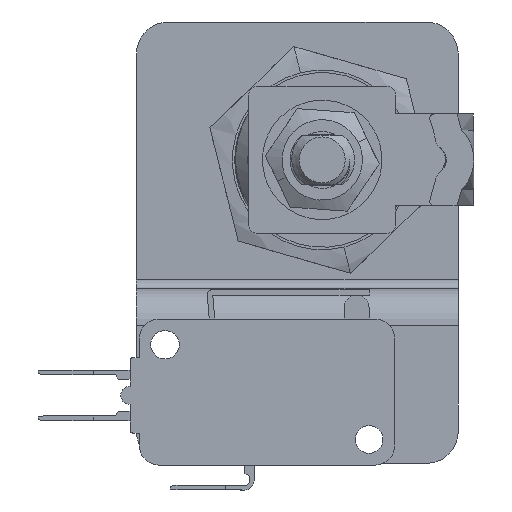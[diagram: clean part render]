
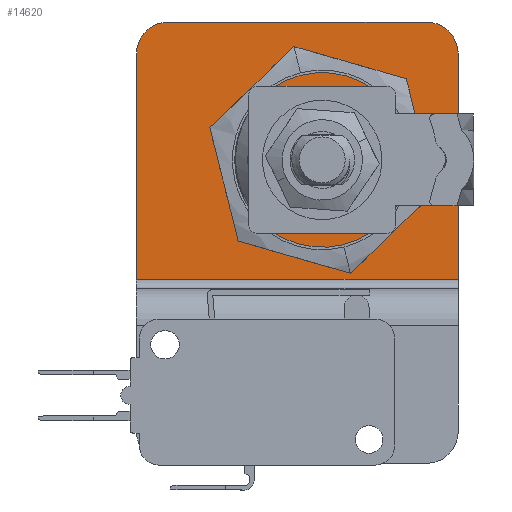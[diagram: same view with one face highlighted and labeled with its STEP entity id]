
A CAD part, front view. The second image highlights one B-rep face of the part: STEP entity #14620.
In plain terms, the highlighted planar face has unit normal (0, -1, 0) as drawn and (0, 1, 0) by its records, which use the part's own axes.
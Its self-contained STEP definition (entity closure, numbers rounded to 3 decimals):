
#10907 = AXIS2_PLACEMENT_3D ( 'NONE', #12233, #12234, #12235 ) ;
#10908 = AXIS2_PLACEMENT_3D ( 'NONE', #12242, #12243, #12244 ) ;
#10911 = AXIS2_PLACEMENT_3D ( 'NONE', #12262, #12263, #12264 ) ;
#10912 = AXIS2_PLACEMENT_3D ( 'NONE', #12269, #12270, #12271 ) ;
#11248 = CIRCLE ( 'NONE', #10907, 9.55 ) ;
#11251 = LINE ( 'NONE', #12236, #11254 ) ;
#11254 = VECTOR ( 'NONE', #12238, 1000. ) ;
#11255 = CIRCLE ( 'NONE', #10908, 9.55 ) ;
#11257 = LINE ( 'NONE', #12240, #11263 ) ;
#11258 = LINE ( 'NONE', #12245, #11261 ) ;
#11261 = VECTOR ( 'NONE', #12246, 1000. ) ;
#11263 = VECTOR ( 'NONE', #12247, 1000. ) ;
#11265 = LINE ( 'NONE', #12248, #11267 ) ;
#11267 = VECTOR ( 'NONE', #12249, 1000. ) ;
#11268 = CIRCLE ( 'NONE', #10911, 3.5 ) ;
#11271 = LINE ( 'NONE', #12265, #11274 ) ;
#11274 = VECTOR ( 'NONE', #12266, 1000. ) ;
#11275 = CIRCLE ( 'NONE', #10912, 3.5 ) ;
#11278 = LINE ( 'NONE', #12272, #11281 ) ;
#11281 = VECTOR ( 'NONE', #12273, 1000. ) ;
#12233 = CARTESIAN_POINT ( 'NONE',  ( 15., 3., 14.8 ) ) ;
#12234 = DIRECTION ( 'NONE',  ( 0., 1., 0. ) ) ;
#12235 = DIRECTION ( 'NONE',  ( 0., 0., -1. ) ) ;
#12236 = CARTESIAN_POINT ( 'NONE',  ( 7., 3., 35. ) ) ;
#12238 = DIRECTION ( 'NONE',  ( 0., 0., 1. ) ) ;
#12240 = CARTESIAN_POINT ( 'NONE',  ( 28., 3., 35. ) ) ;
#12242 = CARTESIAN_POINT ( 'NONE',  ( 15., 3., 14.8 ) ) ;
#12243 = DIRECTION ( 'NONE',  ( 0., 1., 0. ) ) ;
#12244 = DIRECTION ( 'NONE',  ( 0., 0., -1. ) ) ;
#12245 = CARTESIAN_POINT ( 'NONE',  ( 23., 3., 35. ) ) ;
#12246 = DIRECTION ( 'NONE',  ( 0., 0., -1. ) ) ;
#12247 = DIRECTION ( 'NONE',  ( 0., 0., 1. ) ) ;
#12248 = CARTESIAN_POINT ( 'NONE',  ( 32., 3., 35. ) ) ;
#12249 = DIRECTION ( 'NONE',  ( -1., 0., 0. ) ) ;
#12262 = CARTESIAN_POINT ( 'NONE',  ( 3.5, 3., 31.5 ) ) ;
#12263 = DIRECTION ( 'NONE',  ( 0., -1., 0. ) ) ;
#12264 = DIRECTION ( 'NONE',  ( 0., 0., 1. ) ) ;
#12265 = CARTESIAN_POINT ( 'NONE',  ( 0., 3., 35. ) ) ;
#12266 = DIRECTION ( 'NONE',  ( 0., 0., -1. ) ) ;
#12269 = CARTESIAN_POINT ( 'NONE',  ( 3.5, 3., 3.5 ) ) ;
#12270 = DIRECTION ( 'NONE',  ( 0., -1., 0. ) ) ;
#12271 = DIRECTION ( 'NONE',  ( 0., 0., 1. ) ) ;
#12272 = CARTESIAN_POINT ( 'NONE',  ( 32., 3., 0. ) ) ;
#12273 = DIRECTION ( 'NONE',  ( 1., 0., 0. ) ) ;
#14620 = ADVANCED_FACE ( 'NONE', ( #24129, #24133 ), #18482, .F. ) ;
#16200 = CARTESIAN_POINT ( 'NONE',  ( 23., 3., 20.016 ) ) ;
#16219 = CARTESIAN_POINT ( 'NONE',  ( 15., 3., 5.25 ) ) ;
#16227 = CARTESIAN_POINT ( 'NONE',  ( 3.5, 3., 35. ) ) ;
#16230 = CARTESIAN_POINT ( 'NONE',  ( 7., 3., 20.016 ) ) ;
#16231 = CARTESIAN_POINT ( 'NONE',  ( 0., 3., 31.5 ) ) ;
#16233 = CARTESIAN_POINT ( 'NONE',  ( 23., 3., 9.584 ) ) ;
#16238 = CARTESIAN_POINT ( 'NONE',  ( 0., 3., 3.5 ) ) ;
#16239 = CARTESIAN_POINT ( 'NONE',  ( 3.5, 3., 0. ) ) ;
#16253 = CARTESIAN_POINT ( 'NONE',  ( 28., 3., 0. ) ) ;
#16254 = CARTESIAN_POINT ( 'NONE',  ( 28., 3., 35. ) ) ;
#16255 = CARTESIAN_POINT ( 'NONE',  ( 7., 3., 9.584 ) ) ;
#16933 = ORIENTED_EDGE ( 'NONE', *, *, #19567, .F. ) ;
#17753 = EDGE_CURVE ( 'NONE', #22515, #22497, #62235, .T. ) ;
#17893 = ORIENTED_EDGE ( 'NONE', *, *, #19561, .F. ) ;
#17894 = ORIENTED_EDGE ( 'NONE', *, *, #17753, .F. ) ;
#18482 = PLANE ( 'NONE',  #21442 ) ;
#18489 = CARTESIAN_POINT ( 'NONE',  ( 32., 3., 35. ) ) ;
#18490 = DIRECTION ( 'NONE',  ( 0., -1., 0. ) ) ;
#18491 = DIRECTION ( 'NONE',  ( 0., 0., -1. ) ) ;
#19357 = EDGE_LOOP ( 'NONE', ( #26224, #26720, #17893, #17894, #16933 ) ) ;
#19361 = EDGE_LOOP ( 'NONE', ( #37206, #37149, #37201, #37196, #26222, #26223 ) ) ;
#19561 = EDGE_CURVE ( 'NONE', #22497, #22544, #11248, .T. ) ;
#19563 = EDGE_CURVE ( 'NONE', #22544, #22509, #11251, .T. ) ;
#19565 = EDGE_CURVE ( 'NONE', #22509, #22471, #11255, .T. ) ;
#19567 = EDGE_CURVE ( 'NONE', #22471, #22515, #11258, .T. ) ;
#19568 = EDGE_CURVE ( 'NONE', #22542, #22543, #11257, .T. ) ;
#19571 = EDGE_CURVE ( 'NONE', #22543, #22506, #11265, .T. ) ;
#19573 = EDGE_CURVE ( 'NONE', #22506, #22511, #11268, .T. ) ;
#19575 = EDGE_CURVE ( 'NONE', #22511, #22522, #11271, .T. ) ;
#19577 = EDGE_CURVE ( 'NONE', #22522, #22523, #11275, .T. ) ;
#19579 = EDGE_CURVE ( 'NONE', #22523, #22542, #11278, .T. ) ;
#21442 = AXIS2_PLACEMENT_3D ( 'NONE', #18489, #18490, #18491 ) ;
#22471 = VERTEX_POINT ( 'NONE', #16200 ) ;
#22497 = VERTEX_POINT ( 'NONE', #16219 ) ;
#22506 = VERTEX_POINT ( 'NONE', #16227 ) ;
#22509 = VERTEX_POINT ( 'NONE', #16230 ) ;
#22511 = VERTEX_POINT ( 'NONE', #16231 ) ;
#22515 = VERTEX_POINT ( 'NONE', #16233 ) ;
#22522 = VERTEX_POINT ( 'NONE', #16238 ) ;
#22523 = VERTEX_POINT ( 'NONE', #16239 ) ;
#22542 = VERTEX_POINT ( 'NONE', #16253 ) ;
#22543 = VERTEX_POINT ( 'NONE', #16254 ) ;
#22544 = VERTEX_POINT ( 'NONE', #16255 ) ;
#24129 = FACE_OUTER_BOUND ( 'NONE', #19361, .T. ) ;
#24133 = FACE_BOUND ( 'NONE', #19357, .T. ) ;
#26222 = ORIENTED_EDGE ( 'NONE', *, *, #19568, .F. ) ;
#26223 = ORIENTED_EDGE ( 'NONE', *, *, #19579, .F. ) ;
#26224 = ORIENTED_EDGE ( 'NONE', *, *, #19565, .F. ) ;
#26720 = ORIENTED_EDGE ( 'NONE', *, *, #19563, .F. ) ;
#37149 = ORIENTED_EDGE ( 'NONE', *, *, #19575, .F. ) ;
#37196 = ORIENTED_EDGE ( 'NONE', *, *, #19571, .F. ) ;
#37201 = ORIENTED_EDGE ( 'NONE', *, *, #19573, .F. ) ;
#37206 = ORIENTED_EDGE ( 'NONE', *, *, #19577, .F. ) ;
#59025 = AXIS2_PLACEMENT_3D ( 'NONE', #63831, #63832, #63833 ) ;
#62235 = CIRCLE ( 'NONE', #59025, 9.55 ) ;
#63831 = CARTESIAN_POINT ( 'NONE',  ( 15., 3., 14.8 ) ) ;
#63832 = DIRECTION ( 'NONE',  ( 0., 1., 0. ) ) ;
#63833 = DIRECTION ( 'NONE',  ( 0., 0., -1. ) ) ;
